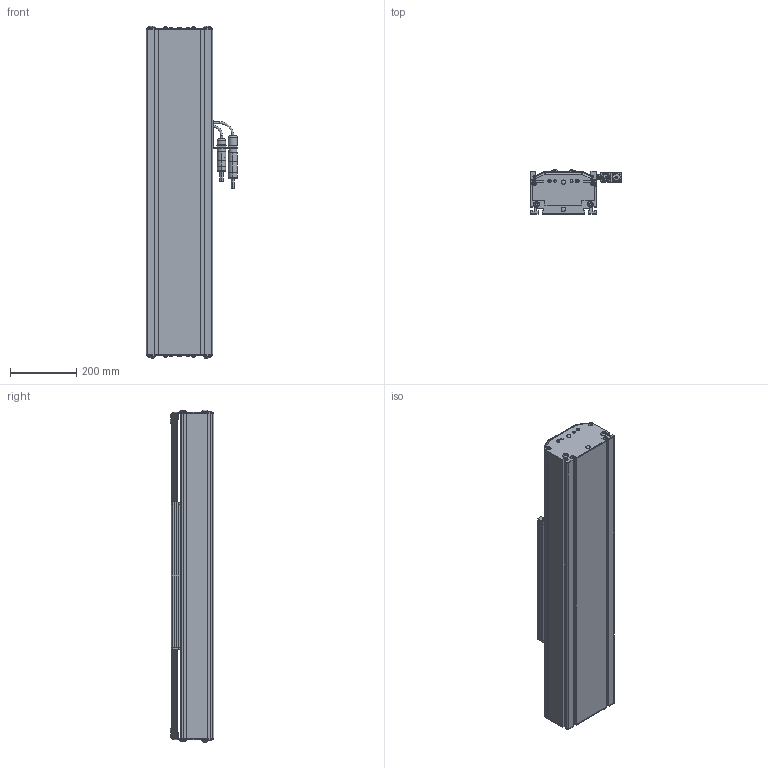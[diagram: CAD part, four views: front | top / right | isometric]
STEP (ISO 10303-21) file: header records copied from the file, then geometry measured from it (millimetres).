
FILE_DESCRIPTION (( 'STEP AP214' ), '1' );
FILE_NAME ('DSM200P.STEP', '2022-07-26T10:15:34', ( '' ), ( '' ), 'SwSTEP 2.0', 'SolidWorks 2020', '' );
FILE_SCHEMA (( 'AUTOMOTIVE_DESIGN' ));
Length unit declared in the file: millimetre
Products named in the file (5): end plate^DSM200P_pos. 1<Wie bearbeitet>; DSM200P; carriage^DSM200P_carriage version 2; plug holder^DSM200P; profile^DSM200P_standard
Assembly tree (5 placements, depth 2):
  DSM200P
    profile^DSM200P_standard
    carriage^DSM200P_carriage version 2
    end plate^DSM200P_pos. 1<Wie bearbeitet>  x2
    plug holder^DSM200P
Bounding box: 276 x 132.4 x 1000 mm (x, y, z)
Volume: 10531058.1 mm3; surface area: 2000622.2 mm2
Topology: 24 solids, 24 shells, 833 faces, 2206 edges, 1424 vertices
Faces by surface type: plane 507, cylinder 218, cone 40, bspline 32, sphere 24, torus 12
Entity records: 25719 total; most frequent: CARTESIAN_POINT 8053, ORIENTED_EDGE 3484, DIRECTION 3164, EDGE_CURVE 1742, LINE 1154, VECTOR 1154, VERTEX_POINT 1148, AXIS2_PLACEMENT_3D 1005
